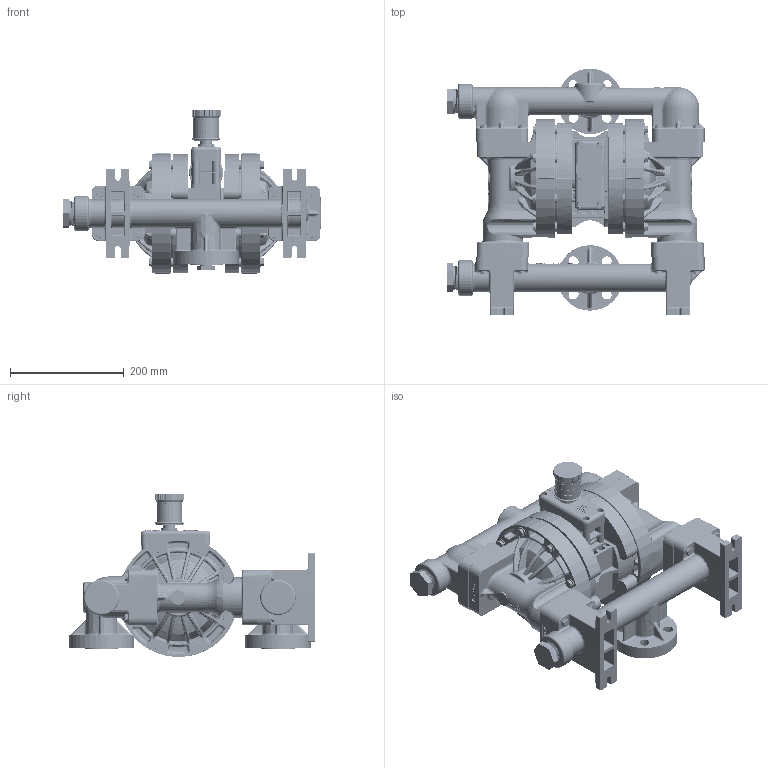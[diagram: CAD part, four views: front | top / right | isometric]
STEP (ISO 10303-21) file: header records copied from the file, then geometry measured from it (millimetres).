
FILE_DESCRIPTION (( 'STEP AP214' ), '1' );
FILE_NAME ('P200_CP_FLANGED_PVDF.STEP', '2025-10-10T09:14:20', ( '' ), ( '' ), 'SwSTEP 2.0', 'SolidWorks 2022', '' );
FILE_SCHEMA (( 'AUTOMOTIVE_DESIGN' ));
Length unit declared in the file: inch
Products named in the file (1): P200_CP_FLANGED_PVDF
Bounding box: 453.02 x 434.29 x 287.5 mm (x, y, z)
Volume: 11421937.9 mm3; surface area: 969318.8 mm2
Topology: 1 solids, 1 shells, 10139 faces, 25673 edges, 15858 vertices
Faces by surface type: plane 5269, bspline 1795, cylinder 1353, cone 672, sphere 591, torus 459
Entity records: 483182 total; most frequent: CARTESIAN_POINT 254396, ORIENTED_EDGE 51288, DIRECTION 42415, EDGE_CURVE 25644, VERTEX_POINT 15855, LINE 14181, VECTOR 14181, AXIS2_PLACEMENT_3D 14117
